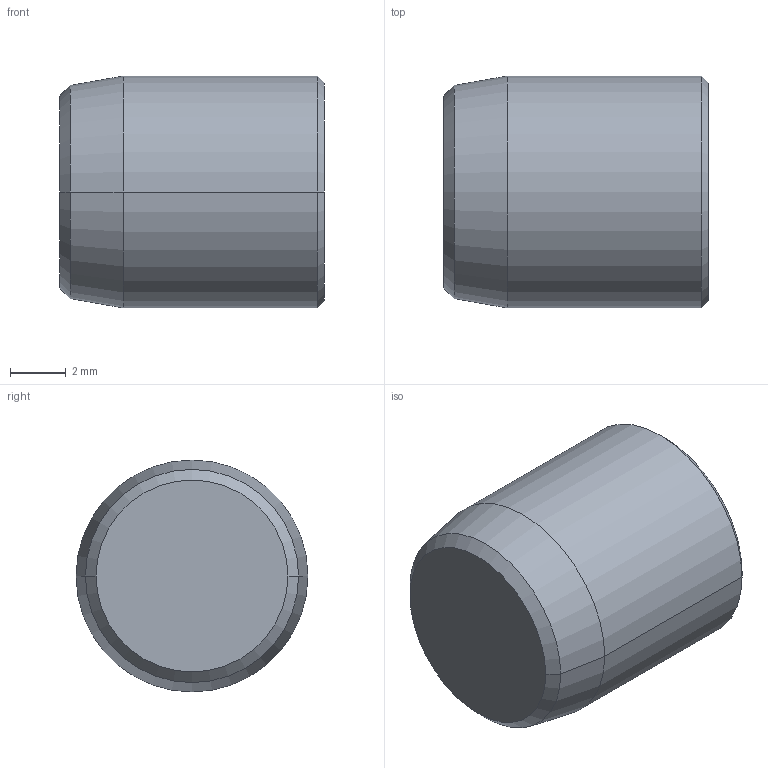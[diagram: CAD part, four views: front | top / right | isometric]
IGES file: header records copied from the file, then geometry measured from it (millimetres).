
Start section:  PTC IGES file: bb58.igs
Global section: file name: bb58.igs; native system: Pro/ENGINEER by Parametric Technology Corporation; preprocessor: 2002350; author: chant; organization: Unknown; date: 070705.143832; units: inch
Bounding box: 9.53 x 8.34 x 8.34 mm (x, y, z)
Surface area: 343.3 mm2 (no closed solid volume)
Topology: 0 solids, 0 shells, 13 faces, 65 edges, 75 vertices
Faces by surface type: revolution 10, bspline 3
